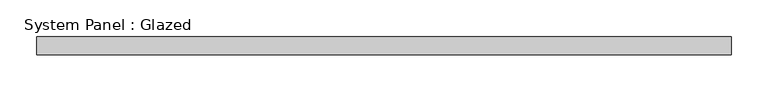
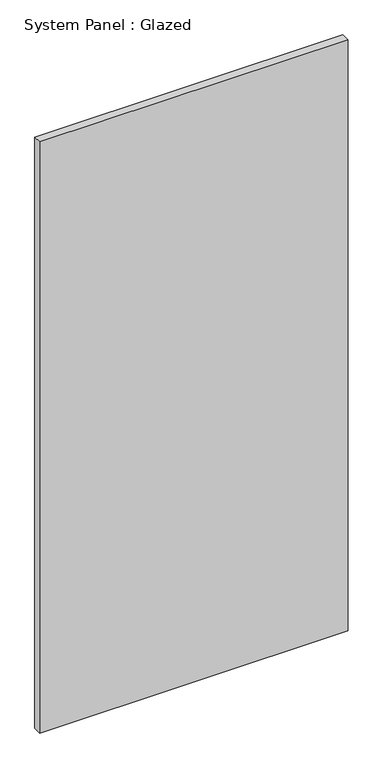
"""IFC4 building model written with IfcOpenShell, lengths in millimetres: plate geometry, System Panel : Glazed."""

from ifc_helpers import new_model, si_unit, origin, origin_with_axes, place, context, project, spatial, polyline, outline, extrude, source, transform, mapped, element, save


def system_panel_glazed_751a585c(model_context):
    return source(origin(), model_context, "Body", "SweptSolid", [
        extrude(outline(polyline([(475.0, 24.5), (-475.0, 24.5), (-475.0, 49.5), (475.0, 49.5), (475.0, 24.5)])), origin_with_axes(), (0.0, 0.0, 1.0), 1925.0),
    ])


if __name__ == "__main__":
    model = new_model("IFC4")
    model_context = context("Model", 3, world=origin())
    ifc_project = project(units=[si_unit("LENGTHUNIT", "METRE", prefix="MILLI")], contexts=[model_context])
    site = spatial("IfcSite", under=ifc_project)
    building = spatial("IfcBuilding", under=site)
    placement = place(None, origin())
    system_panel_glazed_shape = system_panel_glazed_751a585c(model_context)
    element("IfcPlate", 1, ObjectType="System Panel : Glazed", at=placement, inside=building, context=model_context, shape_type="MappedRepresentation", body=[
        mapped(system_panel_glazed_shape, transform((0.0, 0.0, 0.0), x_axis=(1.0, 0.0, 0.0), y_axis=(0.0, 1.0, 0.0), z_axis=(0.0, 0.0, 1.0))),
    ])
    save(model, "model.ifc")
